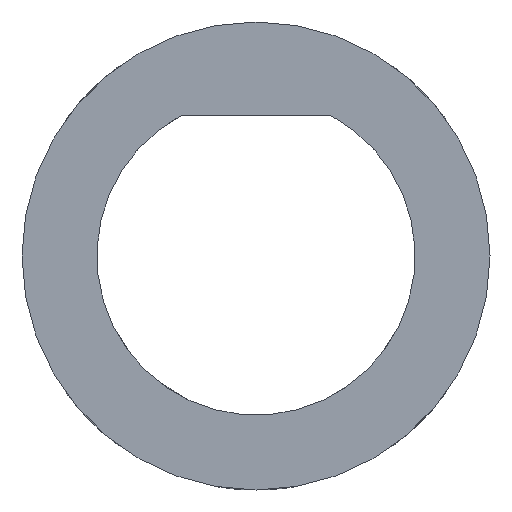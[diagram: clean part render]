
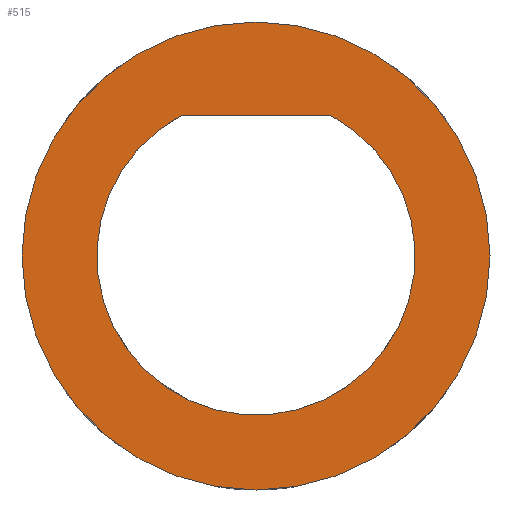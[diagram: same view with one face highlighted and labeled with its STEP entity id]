
A CAD part, front view. The second image highlights one B-rep face of the part: STEP entity #515.
In plain terms, the highlighted planar face has unit normal (0, -1, 0).
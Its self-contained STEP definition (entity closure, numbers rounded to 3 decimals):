
#5 = EDGE_CURVE ( 'NONE', #335, #335, #613, .T. ) ;
#13 = CARTESIAN_POINT ( 'NONE',  ( 0., 0., 0. ) ) ;
#60 = CARTESIAN_POINT ( 'NONE',  ( 0., 0., 0. ) ) ;
#79 = VERTEX_POINT ( 'NONE', #419 ) ;
#139 = EDGE_CURVE ( 'NONE', #832, #79, #591, .T. ) ;
#170 = CARTESIAN_POINT ( 'NONE',  ( 8., 0., 15. ) ) ;
#171 = PLANE ( 'NONE',  #561 ) ;
#173 = CARTESIAN_POINT ( 'NONE',  ( 0., 0., 0. ) ) ;
#242 = DIRECTION ( 'NONE',  ( 0., 1., 0. ) ) ;
#246 = CARTESIAN_POINT ( 'NONE',  ( -8., 0., 15. ) ) ;
#252 = FACE_OUTER_BOUND ( 'NONE', #522, .T. ) ;
#335 = VERTEX_POINT ( 'NONE', #973 ) ;
#356 = EDGE_CURVE ( 'NONE', #79, #832, #863, .T. ) ;
#357 = DIRECTION ( 'NONE',  ( 0., 1., 0. ) ) ;
#419 = CARTESIAN_POINT ( 'NONE',  ( -8., 0., 15. ) ) ;
#469 = AXIS2_PLACEMENT_3D ( 'NONE', #173, #242, #594 ) ;
#504 = VECTOR ( 'NONE', #1033, 1000. ) ;
#515 = ADVANCED_FACE ( 'NONE', ( #252, #854 ), #171, .F. ) ;
#522 = EDGE_LOOP ( 'NONE', ( #934 ) ) ;
#539 = DIRECTION ( 'NONE',  ( 0., 0., 1. ) ) ;
#561 = AXIS2_PLACEMENT_3D ( 'NONE', #60, #766, #880 ) ;
#591 = CIRCLE ( 'NONE', #469, 17. ) ;
#594 = DIRECTION ( 'NONE',  ( 0., 0., 1. ) ) ;
#613 = CIRCLE ( 'NONE', #748, 25. ) ;
#648 = ORIENTED_EDGE ( 'NONE', *, *, #356, .T. ) ;
#724 = ORIENTED_EDGE ( 'NONE', *, *, #139, .T. ) ;
#748 = AXIS2_PLACEMENT_3D ( 'NONE', #13, #357, #539 ) ;
#766 = DIRECTION ( 'NONE',  ( 0., 1., 0. ) ) ;
#832 = VERTEX_POINT ( 'NONE', #170 ) ;
#854 = FACE_BOUND ( 'NONE', #913, .T. ) ;
#863 = LINE ( 'NONE', #246, #504 ) ;
#880 = DIRECTION ( 'NONE',  ( 0., 0., 1. ) ) ;
#913 = EDGE_LOOP ( 'NONE', ( #724, #648 ) ) ;
#934 = ORIENTED_EDGE ( 'NONE', *, *, #5, .F. ) ;
#973 = CARTESIAN_POINT ( 'NONE',  ( 0., 0., 25. ) ) ;
#1033 = DIRECTION ( 'NONE',  ( 1., 0., 0. ) ) ;
